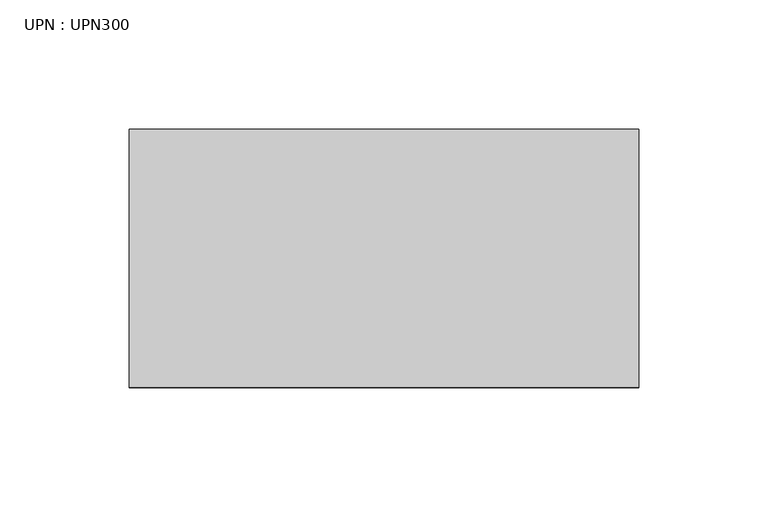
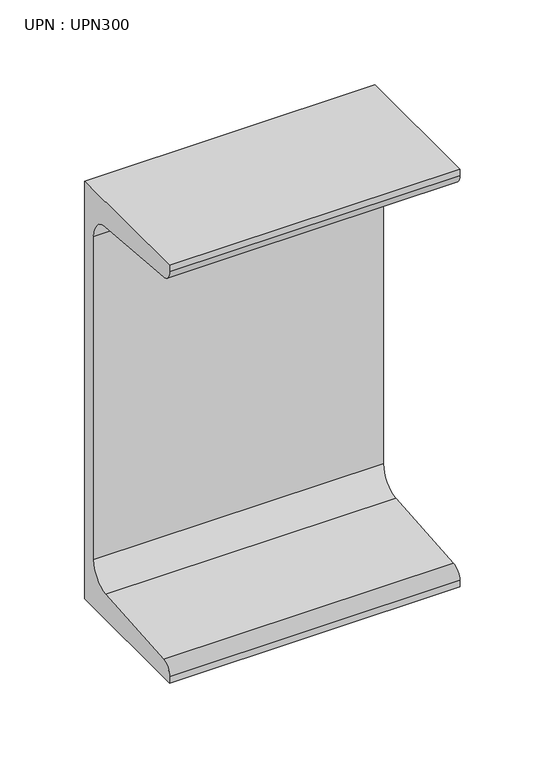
"""IFC4 building model written with IfcOpenShell, lengths in millimetres: beam geometry, UPN : UPN300."""

from ifc_helpers import new_model, si_unit, point, frame, frame_2d, origin, place, context, project, spatial, polyline, circle_curve, trimmed, segment, composite_curve, outline, extrude, source, transform, mapped, element, save


def upn_upn300_c2b881e5(model_context):
    return source(origin(), model_context, "Body", "SweptSolid", [
        extrude(outline(composite_curve([segment(polyline([(27.0, 150.0), (27.0, -150.0), (-73.0, -150.0), (-73.0, -145.3826224)]), True, "CONTINUOUS"), segment(trimmed(circle_curve(frame_2d((-65.0, -145.3826224)), 8.0), [point((-73.0, -145.3826224))], [point((-65.637416, -137.4080566))], False, "CARTESIAN"), True, "CONTINUOUS"), segment(polyline([(-65.637416, -137.4080566), (2.274832, -131.9797543)]), True, "CONTINUOUS"), segment(trimmed(circle_curve(frame_2d((1.0, -116.0306225)), 16.0), [point((2.274832, -131.9797543))], [point((17.0, -116.0306225))], True, "CARTESIAN"), True, "CONTINUOUS"), segment(polyline([(17.0, -116.0306225), (17.0, 116.0306225)]), True, "CONTINUOUS"), segment(trimmed(circle_curve(frame_2d((1.0, 116.0306225)), 16.0), [point((17.0, 116.0306225))], [point((2.274832, 131.9797543))], True, "CARTESIAN"), True, "CONTINUOUS"), segment(polyline([(2.274832, 131.9797543), (-65.637416, 137.4080566)]), True, "CONTINUOUS"), segment(trimmed(circle_curve(frame_2d((-65.0, 145.3826224)), 8.0), [point((-65.637416, 137.4080566))], [point((-73.0, 145.3826224))], False, "CARTESIAN"), True, "CONTINUOUS"), segment(polyline([(-73.0, 145.3826224), (-73.0, 150.0), (27.0, 150.0)]), True, "CONTINUOUS")], self_intersect=False)), frame((-71.9, 0.0, 0.0), z_axis=(1.0, 0.0, 0.0), x_axis=(0.0, 1.0, 0.0)), (0.0, 0.0, 1.0), 197.3),
    ])


if __name__ == "__main__":
    model = new_model("IFC4")
    model_context = context("Model", 3, world=origin())
    ifc_project = project(units=[si_unit("LENGTHUNIT", "METRE", prefix="MILLI")], contexts=[model_context])
    site = spatial("IfcSite", under=ifc_project)
    building = spatial("IfcBuilding", under=site)
    placement = place(None, origin())
    upn_upn300_shape = upn_upn300_c2b881e5(model_context)
    element("IfcBeam", 1, ObjectType="UPN : UPN300", at=placement, inside=building, context=model_context, shape_type="MappedRepresentation", body=[
        mapped(upn_upn300_shape, transform((0.0, 0.0, 0.0), x_axis=(1.0, 0.0, 0.0), y_axis=(0.0, 1.0, 0.0), z_axis=(0.0, 0.0, 1.0))),
    ])
    save(model, "model.ifc")
